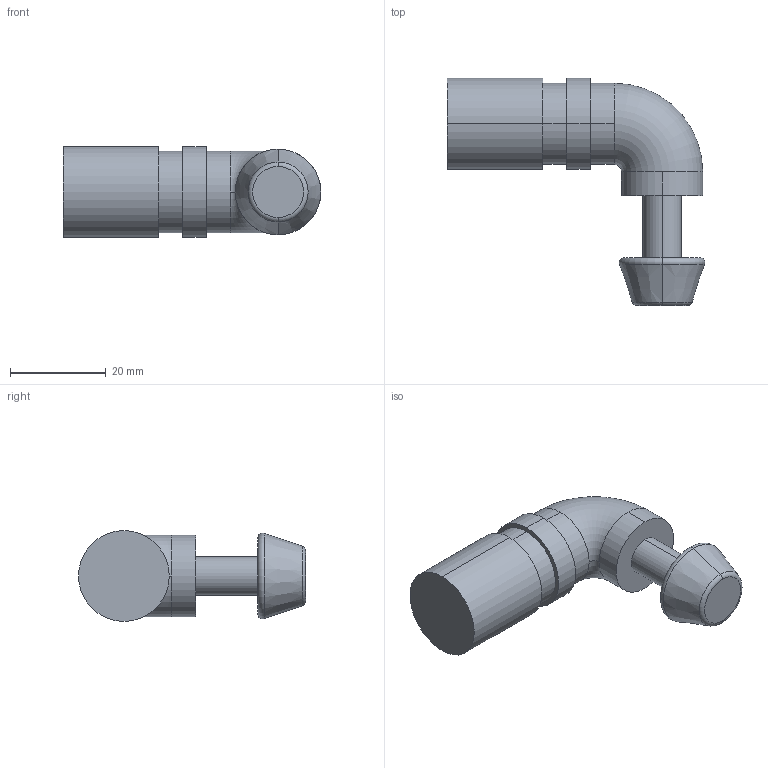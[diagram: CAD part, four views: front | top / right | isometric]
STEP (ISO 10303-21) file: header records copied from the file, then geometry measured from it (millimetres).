
FILE_DESCRIPTION (( 'STEP AP214' ), '1' );
FILE_NAME ('BR601.06 HGB 08-90º.STEP', '2020-12-02T14:01:53', ( '' ), ( '' ), 'SwSTEP 2.0', 'SolidWorks 2018', '' );
FILE_SCHEMA (( 'AUTOMOTIVE_DESIGN' ));
Length unit declared in the file: millimetre
Products named in the file (1): BR601.06 HGB 08-90º
Bounding box: 53.96 x 47.5 x 19 mm (x, y, z)
Volume: 16571.4 mm3; surface area: 4877.7 mm2
Topology: 1 solids, 1 shells, 27 faces, 56 edges, 36 vertices
Faces by surface type: cylinder 12, plane 7, torus 6, cone 2
Entity records: 774 total; most frequent: DIRECTION 154, CARTESIAN_POINT 120, ORIENTED_EDGE 112, AXIS2_PLACEMENT_3D 70, EDGE_CURVE 56, CIRCLE 42, VERTEX_POINT 36, EDGE_LOOP 32
